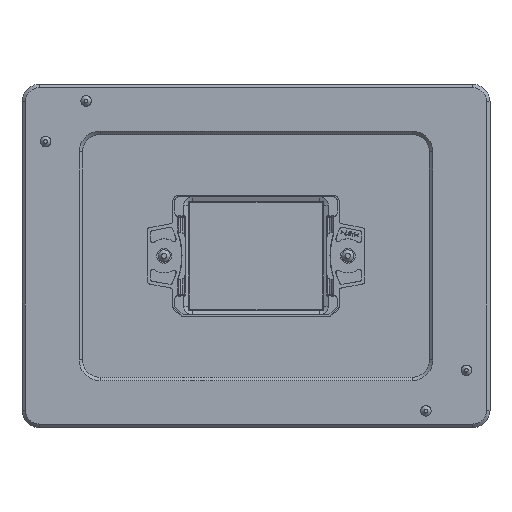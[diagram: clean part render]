
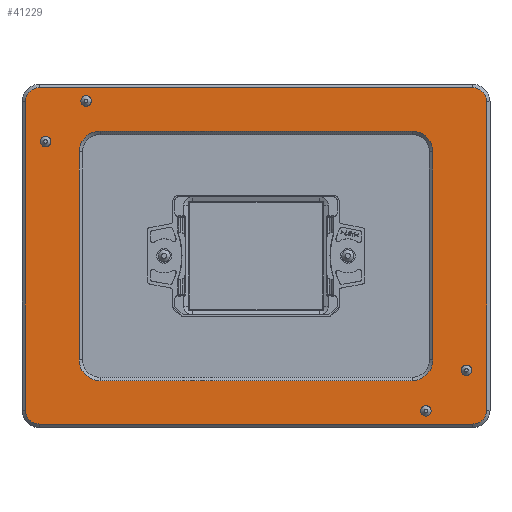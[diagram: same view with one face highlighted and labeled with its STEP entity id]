
A CAD part, top view. The second image highlights one B-rep face of the part: STEP entity #41229.
In plain terms, the highlighted planar face has unit normal (0, 0, 1).
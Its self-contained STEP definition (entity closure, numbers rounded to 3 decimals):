
#1988=LINE('',#78626,#5964);
#1989=LINE('',#78630,#5965);
#1990=LINE('',#78634,#5966);
#1991=LINE('',#78638,#5967);
#1992=LINE('',#78642,#5968);
#1993=LINE('',#78646,#5969);
#1994=LINE('',#78650,#5970);
#1995=LINE('',#78654,#5971);
#5964=VECTOR('',#65723,1000.);
#5965=VECTOR('',#65726,1000.);
#5966=VECTOR('',#65729,1000.);
#5967=VECTOR('',#65732,1000.);
#5968=VECTOR('',#65735,1000.);
#5969=VECTOR('',#65738,1000.);
#5970=VECTOR('',#65741,1000.);
#5971=VECTOR('',#65744,1000.);
#10092=ORIENTED_EDGE('',*,*,#22576,.T.);
#10093=ORIENTED_EDGE('',*,*,#22577,.T.);
#10094=ORIENTED_EDGE('',*,*,#22578,.T.);
#10095=ORIENTED_EDGE('',*,*,#22579,.T.);
#10096=ORIENTED_EDGE('',*,*,#22580,.T.);
#10097=ORIENTED_EDGE('',*,*,#22581,.T.);
#10098=ORIENTED_EDGE('',*,*,#22582,.T.);
#10099=ORIENTED_EDGE('',*,*,#22583,.T.);
#10100=ORIENTED_EDGE('',*,*,#22584,.T.);
#10101=ORIENTED_EDGE('',*,*,#22585,.T.);
#10102=ORIENTED_EDGE('',*,*,#22586,.T.);
#10103=ORIENTED_EDGE('',*,*,#22587,.T.);
#10104=ORIENTED_EDGE('',*,*,#22588,.T.);
#10105=ORIENTED_EDGE('',*,*,#22589,.T.);
#10106=ORIENTED_EDGE('',*,*,#22590,.T.);
#10107=ORIENTED_EDGE('',*,*,#22591,.T.);
#10108=ORIENTED_EDGE('',*,*,#22575,.T.);
#10109=ORIENTED_EDGE('',*,*,#22574,.T.);
#10110=ORIENTED_EDGE('',*,*,#22573,.T.);
#10111=ORIENTED_EDGE('',*,*,#22572,.T.);
#22572=EDGE_CURVE('',#28826,#28826,#32676,.T.);
#22573=EDGE_CURVE('',#28827,#28827,#32677,.T.);
#22574=EDGE_CURVE('',#28828,#28828,#32678,.T.);
#22575=EDGE_CURVE('',#28829,#28829,#32679,.T.);
#22576=EDGE_CURVE('',#28830,#28831,#32680,.T.);
#22577=EDGE_CURVE('',#28831,#28832,#1988,.T.);
#22578=EDGE_CURVE('',#28832,#28833,#32681,.T.);
#22579=EDGE_CURVE('',#28833,#28834,#1989,.T.);
#22580=EDGE_CURVE('',#28834,#28835,#32682,.T.);
#22581=EDGE_CURVE('',#28835,#28836,#1990,.T.);
#22582=EDGE_CURVE('',#28836,#28837,#32683,.T.);
#22583=EDGE_CURVE('',#28837,#28830,#1991,.T.);
#22584=EDGE_CURVE('',#28838,#28839,#32684,.F.);
#22585=EDGE_CURVE('',#28839,#28840,#1992,.T.);
#22586=EDGE_CURVE('',#28840,#28841,#32685,.F.);
#22587=EDGE_CURVE('',#28841,#28842,#1993,.T.);
#22588=EDGE_CURVE('',#28842,#28843,#32686,.F.);
#22589=EDGE_CURVE('',#28843,#28844,#1994,.T.);
#22590=EDGE_CURVE('',#28844,#28845,#32687,.F.);
#22591=EDGE_CURVE('',#28845,#28838,#1995,.T.);
#28826=VERTEX_POINT('',#78612);
#28827=VERTEX_POINT('',#78615);
#28828=VERTEX_POINT('',#78618);
#28829=VERTEX_POINT('',#78621);
#28830=VERTEX_POINT('',#78624);
#28831=VERTEX_POINT('',#78625);
#28832=VERTEX_POINT('',#78627);
#28833=VERTEX_POINT('',#78629);
#28834=VERTEX_POINT('',#78631);
#28835=VERTEX_POINT('',#78633);
#28836=VERTEX_POINT('',#78635);
#28837=VERTEX_POINT('',#78637);
#28838=VERTEX_POINT('',#78640);
#28839=VERTEX_POINT('',#78641);
#28840=VERTEX_POINT('',#78643);
#28841=VERTEX_POINT('',#78645);
#28842=VERTEX_POINT('',#78647);
#28843=VERTEX_POINT('',#78649);
#28844=VERTEX_POINT('',#78651);
#28845=VERTEX_POINT('',#78653);
#32676=CIRCLE('',#61044,1.5);
#32677=CIRCLE('',#61046,1.5);
#32678=CIRCLE('',#61048,1.5);
#32679=CIRCLE('',#61050,1.5);
#32680=CIRCLE('',#61052,4.);
#32681=CIRCLE('',#61053,4.);
#32682=CIRCLE('',#61054,4.);
#32683=CIRCLE('',#61055,4.);
#32684=CIRCLE('',#61056,6.);
#32685=CIRCLE('',#61057,6.);
#32686=CIRCLE('',#61058,6.);
#32687=CIRCLE('',#61059,6.);
#34454=EDGE_LOOP('',(#10092,#10093,#10094,#10095,#10096,#10097,#10098,#10099));
#34455=EDGE_LOOP('',(#10100,#10101,#10102,#10103,#10104,#10105,#10106,#10107));
#34456=EDGE_LOOP('',(#10108));
#34457=EDGE_LOOP('',(#10109));
#34458=EDGE_LOOP('',(#10110));
#34459=EDGE_LOOP('',(#10111));
#37206=FACE_BOUND('',#34454,.T.);
#37207=FACE_BOUND('',#34455,.T.);
#37208=FACE_BOUND('',#34456,.T.);
#37209=FACE_BOUND('',#34457,.T.);
#37210=FACE_BOUND('',#34458,.T.);
#37211=FACE_BOUND('',#34459,.T.);
#39924=PLANE('',#61051);
#41229=ADVANCED_FACE('',(#37206,#37207,#37208,#37209,#37210,#37211),#39924,
 .T.);
#61044=AXIS2_PLACEMENT_3D('',#78611,#65705,#65706);
#61046=AXIS2_PLACEMENT_3D('',#78614,#65709,#65710);
#61048=AXIS2_PLACEMENT_3D('',#78617,#65713,#65714);
#61050=AXIS2_PLACEMENT_3D('',#78620,#65717,#65718);
#61051=AXIS2_PLACEMENT_3D('',#78622,#65719,#65720);
#61052=AXIS2_PLACEMENT_3D('',#78623,#65721,#65722);
#61053=AXIS2_PLACEMENT_3D('',#78628,#65724,#65725);
#61054=AXIS2_PLACEMENT_3D('',#78632,#65727,#65728);
#61055=AXIS2_PLACEMENT_3D('',#78636,#65730,#65731);
#61056=AXIS2_PLACEMENT_3D('',#78639,#65733,#65734);
#61057=AXIS2_PLACEMENT_3D('',#78644,#65736,#65737);
#61058=AXIS2_PLACEMENT_3D('',#78648,#65739,#65740);
#61059=AXIS2_PLACEMENT_3D('',#78652,#65742,#65743);
#65705=DIRECTION('',(0.,0.,-1.));
#65706=DIRECTION('',(0.,-1.,0.));
#65709=DIRECTION('',(0.,0.,-1.));
#65710=DIRECTION('',(0.,-1.,0.));
#65713=DIRECTION('',(0.,0.,-1.));
#65714=DIRECTION('',(0.,-1.,0.));
#65717=DIRECTION('',(0.,0.,-1.));
#65718=DIRECTION('',(0.,-1.,0.));
#65719=DIRECTION('',(0.,0.,1.));
#65720=DIRECTION('',(1.,0.,0.));
#65721=DIRECTION('',(0.,0.,1.));
#65722=DIRECTION('',(1.,0.,0.));
#65723=DIRECTION('',(-1.,0.,0.));
#65724=DIRECTION('',(0.,0.,1.));
#65725=DIRECTION('',(1.,0.,0.));
#65726=DIRECTION('',(0.,-1.,0.));
#65727=DIRECTION('',(0.,0.,1.));
#65728=DIRECTION('',(1.,0.,0.));
#65729=DIRECTION('',(1.,0.,0.));
#65730=DIRECTION('',(0.,0.,1.));
#65731=DIRECTION('',(1.,0.,0.));
#65732=DIRECTION('',(0.,1.,0.));
#65733=DIRECTION('',(0.,0.,1.));
#65734=DIRECTION('',(1.,0.,0.));
#65735=DIRECTION('',(-1.,0.,0.));
#65736=DIRECTION('',(0.,0.,1.));
#65737=DIRECTION('',(1.,0.,0.));
#65738=DIRECTION('',(0.,1.,0.));
#65739=DIRECTION('',(0.,0.,1.));
#65740=DIRECTION('',(1.,0.,0.));
#65741=DIRECTION('',(1.,0.,0.));
#65742=DIRECTION('',(0.,0.,1.));
#65743=DIRECTION('',(1.,0.,0.));
#65744=DIRECTION('',(0.,-1.,0.));
#78611=CARTESIAN_POINT('',(49.,-44.7,28.));
#78612=CARTESIAN_POINT('',(49.,-46.2,28.));
#78614=CARTESIAN_POINT('',(-49.,44.7,28.));
#78615=CARTESIAN_POINT('',(-49.,43.2,28.));
#78617=CARTESIAN_POINT('',(-60.7,33.,28.));
#78618=CARTESIAN_POINT('',(-60.7,31.5,28.));
#78620=CARTESIAN_POINT('',(60.7,-33.,28.));
#78621=CARTESIAN_POINT('',(60.7,-34.5,28.));
#78622=CARTESIAN_POINT('',(-67.5,-49.5,28.));
#78623=CARTESIAN_POINT('',(62.5,44.5,28.));
#78624=CARTESIAN_POINT('',(66.5,44.5,28.));
#78625=CARTESIAN_POINT('',(62.5,48.5,28.));
#78626=CARTESIAN_POINT('',(-62.5,48.5,28.));
#78627=CARTESIAN_POINT('',(-62.5,48.5,28.));
#78628=CARTESIAN_POINT('',(-62.5,44.5,28.));
#78629=CARTESIAN_POINT('',(-66.5,44.5,28.));
#78630=CARTESIAN_POINT('',(-66.5,-44.5,28.));
#78631=CARTESIAN_POINT('',(-66.5,-44.5,28.));
#78632=CARTESIAN_POINT('',(-62.5,-44.5,28.));
#78633=CARTESIAN_POINT('',(-62.5,-48.5,28.));
#78634=CARTESIAN_POINT('',(62.5,-48.5,28.));
#78635=CARTESIAN_POINT('',(62.5,-48.5,28.));
#78636=CARTESIAN_POINT('',(62.5,-44.5,28.));
#78637=CARTESIAN_POINT('',(66.5,-44.5,28.));
#78638=CARTESIAN_POINT('',(66.5,44.5,28.));
#78639=CARTESIAN_POINT('',(45.,-30.,28.));
#78640=CARTESIAN_POINT('',(51.,-30.,28.));
#78641=CARTESIAN_POINT('',(45.,-36.,28.));
#78642=CARTESIAN_POINT('',(-45.,-36.,28.));
#78643=CARTESIAN_POINT('',(-45.,-36.,28.));
#78644=CARTESIAN_POINT('',(-45.,-30.,28.));
#78645=CARTESIAN_POINT('',(-51.,-30.,28.));
#78646=CARTESIAN_POINT('',(-51.,30.,28.));
#78647=CARTESIAN_POINT('',(-51.,30.,28.));
#78648=CARTESIAN_POINT('',(-45.,30.,28.));
#78649=CARTESIAN_POINT('',(-45.,36.,28.));
#78650=CARTESIAN_POINT('',(45.,36.,28.));
#78651=CARTESIAN_POINT('',(45.,36.,28.));
#78652=CARTESIAN_POINT('',(45.,30.,28.));
#78653=CARTESIAN_POINT('',(51.,30.,28.));
#78654=CARTESIAN_POINT('',(51.,-30.,28.));
